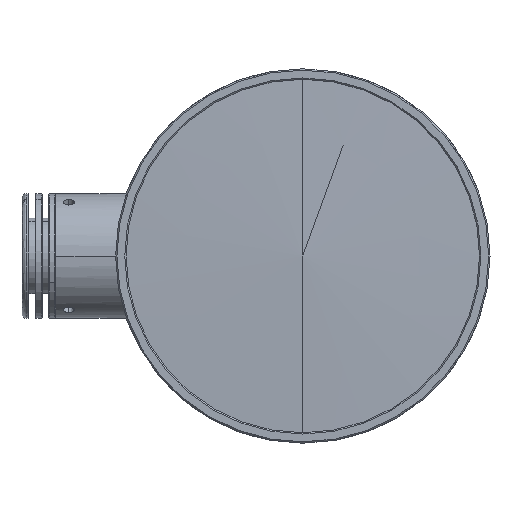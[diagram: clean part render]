
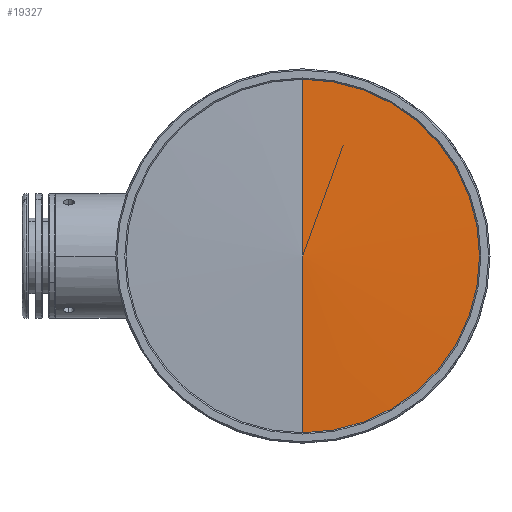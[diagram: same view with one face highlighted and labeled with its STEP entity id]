
A CAD part, left-side view. The second image highlights one B-rep face of the part: STEP entity #19327.
In plain terms, the highlighted conical face has half-angle 88.257 degrees and reference radius 41.441 mm.
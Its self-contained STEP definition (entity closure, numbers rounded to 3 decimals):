
#489 = FACE_OUTER_BOUND ( 'NONE', #11171, .T. ) ;
#548 = LINE ( 'NONE', #5665, #2434 ) ;
#747 = CIRCLE ( 'NONE', #18274, 39.65 ) ;
#2241 = CARTESIAN_POINT ( 'NONE',  ( 0., 0., 0. ) ) ;
#2434 = VECTOR ( 'NONE', #21147, 1000. ) ;
#3573 = EDGE_CURVE ( 'NONE', #11849, #19251, #747, .T. ) ;
#3871 = DIRECTION ( 'NONE',  ( 1., 0., 0. ) ) ;
#4276 = CARTESIAN_POINT ( 'NONE',  ( 1.206, 0., 39.65 ) ) ;
#4280 = ORIENTED_EDGE ( 'NONE', *, *, #8719, .F. ) ;
#4638 = VERTEX_POINT ( 'NONE', #2241 ) ;
#5404 = CARTESIAN_POINT ( 'NONE',  ( 1.206, 0., 0. ) ) ;
#5665 = CARTESIAN_POINT ( 'NONE',  ( 1.261, 0., 41.441 ) ) ;
#7460 = CARTESIAN_POINT ( 'NONE',  ( 1.261, 0., 0. ) ) ;
#7671 = VECTOR ( 'NONE', #16960, 1000. ) ;
#8719 = EDGE_CURVE ( 'NONE', #4638, #11849, #548, .T. ) ;
#10195 = ORIENTED_EDGE ( 'NONE', *, *, #18029, .T. ) ;
#10852 = CARTESIAN_POINT ( 'NONE',  ( 1.206, 0., -39.65 ) ) ;
#11171 = EDGE_LOOP ( 'NONE', ( #4280, #10195, #24748, #12235 ) ) ;
#11849 = VERTEX_POINT ( 'NONE', #4276 ) ;
#12116 = VERTEX_POINT ( 'NONE', #10852 ) ;
#12235 = ORIENTED_EDGE ( 'NONE', *, *, #3573, .F. ) ;
#12777 = CIRCLE ( 'NONE', #24838, 39.65 ) ;
#12869 = CARTESIAN_POINT ( 'NONE',  ( 1.261, 0., -41.441 ) ) ;
#13385 = EDGE_CURVE ( 'NONE', #19251, #12116, #12777, .T. ) ;
#15290 = DIRECTION ( 'NONE',  ( 1., 0., 0. ) ) ;
#16960 = DIRECTION ( 'NONE',  ( 0.03, 0., -1. ) ) ;
#17593 = DIRECTION ( 'NONE',  ( 0., 0., -1. ) ) ;
#18029 = EDGE_CURVE ( 'NONE', #4638, #12116, #20518, .T. ) ;
#18274 = AXIS2_PLACEMENT_3D ( 'NONE', #25373, #3871, #17593 ) ;
#18343 = AXIS2_PLACEMENT_3D ( 'NONE', #7460, #19018, #21131 ) ;
#19018 = DIRECTION ( 'NONE',  ( 1., 0., 0. ) ) ;
#19172 = DIRECTION ( 'NONE',  ( 0., 0., -1. ) ) ;
#19251 = VERTEX_POINT ( 'NONE', #20701 ) ;
#19327 = ADVANCED_FACE ( 'NONE', ( #489 ), #19551, .T. ) ;
#19551 = CONICAL_SURFACE ( 'NONE', #18343, 41.441, 1.54 ) ;
#20518 = LINE ( 'NONE', #12869, #7671 ) ;
#20701 = CARTESIAN_POINT ( 'NONE',  ( 1.206, -39.65, 0. ) ) ;
#21131 = DIRECTION ( 'NONE',  ( 0., 0., -1. ) ) ;
#21147 = DIRECTION ( 'NONE',  ( 0.03, 0., 1. ) ) ;
#24748 = ORIENTED_EDGE ( 'NONE', *, *, #13385, .F. ) ;
#24838 = AXIS2_PLACEMENT_3D ( 'NONE', #5404, #15290, #19172 ) ;
#25373 = CARTESIAN_POINT ( 'NONE',  ( 1.206, 0., 0. ) ) ;
